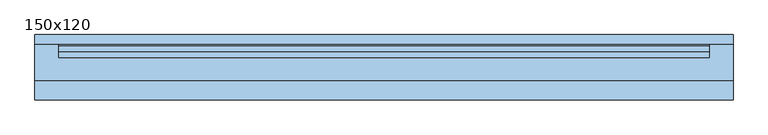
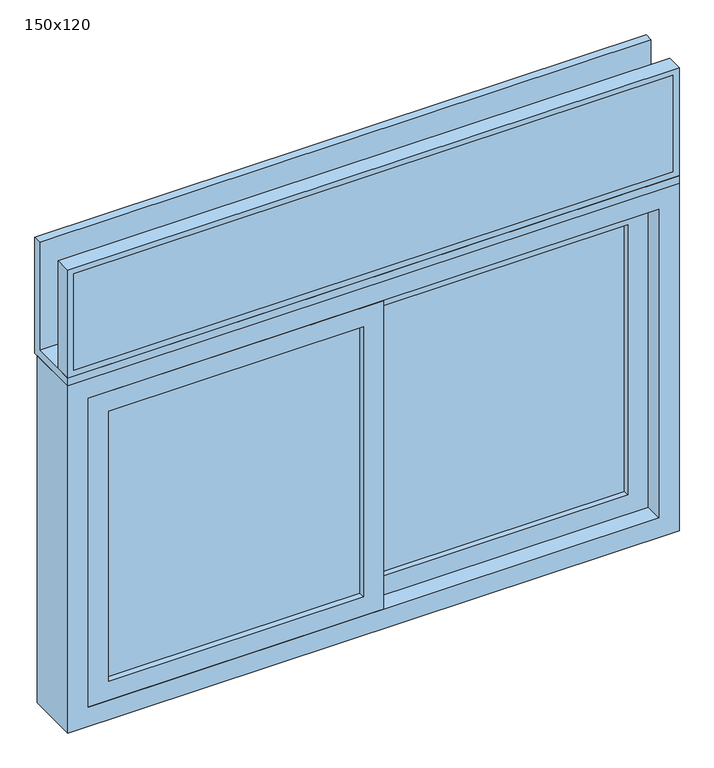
"""IFC4 building model written with IfcOpenShell, lengths in millimetres: window geometry, Veneziana - 2 Painéis : 150x120."""

from ifc_helpers import new_model, si_unit, frame, origin, place, context, project, spatial, polyline, outline, extrude, faceted_brep, source, transform, mapped, element, save


def window_150x120_d34a449e(model_context):
    return source(origin(), model_context, "Body", "SolidModel", [
        faceted_brep([(-700.0, 60.0, 1570.0), (-700.0, 50.0, 1570.0), (-700.0, 20.0, 1570.0), (-700.0, 20.0, 1550.0), (-700.0, 60.0, 1550.0), (700.0, 50.0, 1570.0), (700.0, 60.0, 1570.0), (700.0, 60.0, 1550.0), (700.0, 20.0, 1550.0), (700.0, 20.0, 1570.0), (-750.0, 50.0, 1570.0), (-750.0, 50.0, 1850.0), (-750.0, 70.0, 1850.0), (-750.0, 70.0, 1550.0), (-750.0, -70.0, 1550.0), (-750.0, -70.0, 1570.0), (750.0, 50.0, 1570.0), (750.0, -70.0, 1570.0), (750.0, -70.0, 1550.0), (750.0, 70.0, 1550.0), (750.0, 70.0, 1850.0), (750.0, 50.0, 1850.0)], [[[0, 1, 2, 3, 4]], [[5, 6, 7, 8, 9]], [[6, 0, 4, 7]], [[3, 2, 9, 8]], [[10, 11, 12, 13, 14, 15]], [[16, 17, 18, 19, 20, 21]], [[11, 10, 1, 5, 16, 21]], [[12, 11, 21, 20]], [[13, 12, 20, 19]], [[14, 13, 19, 18], [4, 3, 8, 7]], [[15, 14, 18, 17]], [[10, 15, 17, 16, 5, 9, 2, 1]], [[0, 6, 5, 1]]]),
        extrude(outline(polyline([(-735.0, -70.0), (-735.0, -55.0), (735.0, -55.0), (735.0, -70.0), (-735.0, -70.0)])), frame((0.0, 0.0, 1585.0), z_axis=(0.0, 0.0, 1.0), x_axis=(1.0, 0.0, 0.0)), (0.0, 0.0, 1.0), 250.0),
        faceted_brep([(720.0, -40.0, 1820.0), (720.0, -30.0, 1820.0), (720.0, -30.0, 1600.0), (720.0, -40.0, 1600.0), (735.0, -70.0, 1835.0), (735.0, -40.0, 1835.0), (735.0, -40.0, 1585.0), (735.0, -70.0, 1585.0), (750.0, -30.0, 1850.0), (750.0, -70.0, 1850.0), (750.0, -70.0, 1570.0), (750.0, -30.0, 1570.0), (-720.0, -30.0, 1600.0), (-720.0, -40.0, 1600.0), (-735.0, -40.0, 1585.0), (-735.0, -70.0, 1585.0), (-750.0, -70.0, 1570.0), (-750.0, -30.0, 1570.0), (-720.0, -30.0, 1820.0), (-720.0, -40.0, 1820.0), (-735.0, -40.0, 1835.0), (-735.0, -70.0, 1835.0), (-750.0, -70.0, 1850.0), (-750.0, -30.0, 1850.0)], [[[0, 1, 2, 3]], [[4, 5, 6, 7]], [[8, 9, 10, 11]], [[3, 2, 12, 13]], [[7, 6, 14, 15]], [[11, 10, 16, 17]], [[13, 12, 18, 19]], [[15, 14, 20, 21]], [[17, 16, 22, 23]], [[19, 18, 1, 0]], [[5, 20, 14, 6], [3, 13, 19, 0]], [[21, 20, 5, 4]], [[9, 22, 16, 10], [7, 15, 21, 4]], [[23, 22, 9, 8]], [[11, 17, 23, 8], [1, 18, 12, 2]]]),
        faceted_brep([(700.0, 60.0, 700.0), (700.0, 47.0, 700.0), (700.0, 47.0, 1512.5), (700.0, 33.0, 1512.5), (700.0, 33.0, 700.0), (700.0, -70.0, 700.0), (700.0, -70.0, 1500.0), (700.0, 20.0, 1500.0), (700.0, 20.0, 1550.0), (700.0, 60.0, 1550.0), (-700.0, 60.0, 700.0), (-700.0, 47.0, 700.0), (-700.0, 47.0, 1512.5), (-712.5, 47.0, 1512.5), (-712.5, 47.0, 687.5), (712.5, 47.0, 687.5), (712.5, 47.0, 1512.5), (712.5, 33.0, 1512.5), (712.5, 33.0, 687.5), (-712.5, 33.0, 687.5), (-712.5, 33.0, 1512.5), (-700.0, 33.0, 1512.5), (-700.0, 33.0, 700.0), (-700.0, -70.0, 700.0), (750.0, -70.0, 650.0), (750.0, -70.0, 1550.0), (-750.0, -70.0, 1550.0), (-750.0, -70.0, 650.0), (-700.0, -70.0, 1500.0), (750.0, 60.0, 1550.0), (750.0, 60.0, 650.0), (-750.0, 60.0, 650.0), (-750.0, 60.0, 1550.0), (-700.0, 60.0, 1550.0), (-700.0, 20.0, 1550.0), (-700.0, 20.0, 1500.0)], [[[0, 1, 2, 3, 4, 5, 6, 7, 8, 9]], [[1, 0, 10, 11]], [[2, 1, 11, 12, 13, 14, 15, 16]], [[17, 18, 19, 20, 21, 22, 4, 3]], [[5, 4, 22, 23]], [[24, 25, 26, 27], [6, 5, 23, 28]], [[0, 9, 29, 30, 31, 32, 33, 10]], [[17, 16, 15, 18]], [[18, 15, 14, 19]], [[29, 25, 24, 30]], [[30, 24, 27, 31]], [[11, 10, 33, 34, 35, 28, 23, 22, 21, 12]], [[19, 14, 13, 20]], [[31, 27, 26, 32]], [[35, 34, 8, 7]], [[16, 17, 3, 2]], [[20, 13, 12, 21]], [[6, 28, 35, 7]], [[25, 29, 9, 8, 34, 33, 32, 26]]]),
        extrude(outline(polyline([(0.0, 0.0), (675.0, 0.0), (675.0, -10.0), (0.0, -10.0), (0.0, 0.0)])), frame((0.0, 0.0, 725.0), z_axis=(0.0, 0.0, 1.0), x_axis=(1.0, 0.0, 0.0)), (0.0, 0.0, 1.0), 750.0),
        extrude(outline(polyline([(-675.0, -45.0), (0.0, -45.0), (0.0, -55.0), (-675.0, -55.0), (-675.0, -45.0)])), frame((0.0, 0.0, 725.0), z_axis=(0.0, 0.0, 1.0), x_axis=(1.0, 0.0, 0.0)), (0.0, 0.0, 1.0), 750.0),
        faceted_brep([(650.0, 0.0, 1450.0), (650.0, 15.0, 1450.0), (650.0, 15.0, 750.0), (650.0, 0.0, 750.0), (700.0, 15.0, 700.0), (-25.0, 15.0, 700.0), (-25.0, 15.0, 1500.0), (700.0, 15.0, 1500.0), (25.0, 15.0, 1450.0), (25.0, 15.0, 750.0), (25.0, 0.0, 750.0), (675.0, 0.0, 1475.0), (0.0, 0.0, 1475.0), (0.0, 0.0, 725.0), (675.0, 0.0, 725.0), (25.0, 0.0, 1450.0), (675.0, -10.0, 1475.0), (675.0, -10.0, 725.0), (0.0, -10.0, 725.0), (0.0, -10.0, 1475.0), (650.0, -10.0, 1450.0), (25.0, -10.0, 1450.0), (25.0, -10.0, 750.0), (650.0, -10.0, 750.0), (650.0, -25.0, 1450.0), (650.0, -25.0, 750.0), (25.0, -25.0, 750.0), (700.0, -25.0, 1500.0), (-25.0, -25.0, 1500.0), (-25.0, -25.0, 700.0), (700.0, -25.0, 700.0), (25.0, -25.0, 1450.0)], [[[0, 1, 2, 3]], [[4, 5, 6, 7], [1, 8, 9, 2]], [[3, 2, 9, 10]], [[11, 12, 13, 14], [3, 10, 15, 0]], [[16, 11, 14, 17]], [[17, 14, 13, 18]], [[17, 18, 19, 16], [20, 21, 22, 23]], [[24, 20, 23, 25]], [[25, 23, 22, 26]], [[27, 28, 29, 30], [25, 26, 31, 24]], [[7, 27, 30, 4]], [[4, 30, 29, 5]], [[10, 9, 8, 15]], [[18, 13, 12, 19]], [[26, 22, 21, 31]], [[5, 29, 28, 6]], [[15, 8, 1, 0]], [[19, 12, 11, 16]], [[31, 21, 20, 24]], [[6, 28, 27, 7]]]),
        faceted_brep([(-25.0, -45.0, 1450.0), (-25.0, -30.0, 1450.0), (-25.0, -30.0, 750.0), (-25.0, -45.0, 750.0), (25.0, -30.0, 700.0), (-700.0, -30.0, 700.0), (-700.0, -30.0, 1500.0), (25.0, -30.0, 1500.0), (-650.0, -30.0, 1450.0), (-650.0, -30.0, 750.0), (-650.0, -45.0, 750.0), (0.0, -45.0, 1475.0), (-675.0, -45.0, 1475.0), (-675.0, -45.0, 725.0), (0.0, -45.0, 725.0), (-650.0, -45.0, 1450.0), (0.0, -55.0, 1475.0), (0.0, -55.0, 725.0), (-675.0, -55.0, 725.0), (-675.0, -55.0, 1475.0), (-25.0, -55.0, 1450.0), (-650.0, -55.0, 1450.0), (-650.0, -55.0, 750.0), (-25.0, -55.0, 750.0), (-25.0, -70.0, 1450.0), (-25.0, -70.0, 750.0), (-650.0, -70.0, 750.0), (25.0, -70.0, 1500.0), (-700.0, -70.0, 1500.0), (-700.0, -70.0, 700.0), (25.0, -70.0, 700.0), (-650.0, -70.0, 1450.0)], [[[0, 1, 2, 3]], [[4, 5, 6, 7], [1, 8, 9, 2]], [[3, 2, 9, 10]], [[11, 12, 13, 14], [3, 10, 15, 0]], [[16, 11, 14, 17]], [[17, 14, 13, 18]], [[17, 18, 19, 16], [20, 21, 22, 23]], [[24, 20, 23, 25]], [[25, 23, 22, 26]], [[27, 28, 29, 30], [25, 26, 31, 24]], [[7, 27, 30, 4]], [[4, 30, 29, 5]], [[10, 9, 8, 15]], [[18, 13, 12, 19]], [[26, 22, 21, 31]], [[5, 29, 28, 6]], [[15, 8, 1, 0]], [[19, 12, 11, 16]], [[31, 21, 20, 24]], [[6, 28, 27, 7]]]),
    ])


if __name__ == "__main__":
    model = new_model("IFC4")
    model_context = context("Model", 3, world=origin())
    ifc_project = project(units=[si_unit("LENGTHUNIT", "METRE", prefix="MILLI")], contexts=[model_context])
    site = spatial("IfcSite", under=ifc_project)
    building = spatial("IfcBuilding", under=site)
    placement = place(None, origin())
    window_150x120_shape = window_150x120_d34a449e(model_context)
    element("IfcWindow", 1, ObjectType="Veneziana - 2 Painéis : 150x120", at=placement, inside=building, context=model_context, shape_type="MappedRepresentation", body=[
        mapped(window_150x120_shape, transform((0.0, 0.0, 0.0), x_axis=(1.0, 0.0, 0.0), y_axis=(0.0, 1.0, 0.0), z_axis=(0.0, 0.0, 1.0))),
    ])
    save(model, "model.ifc")
